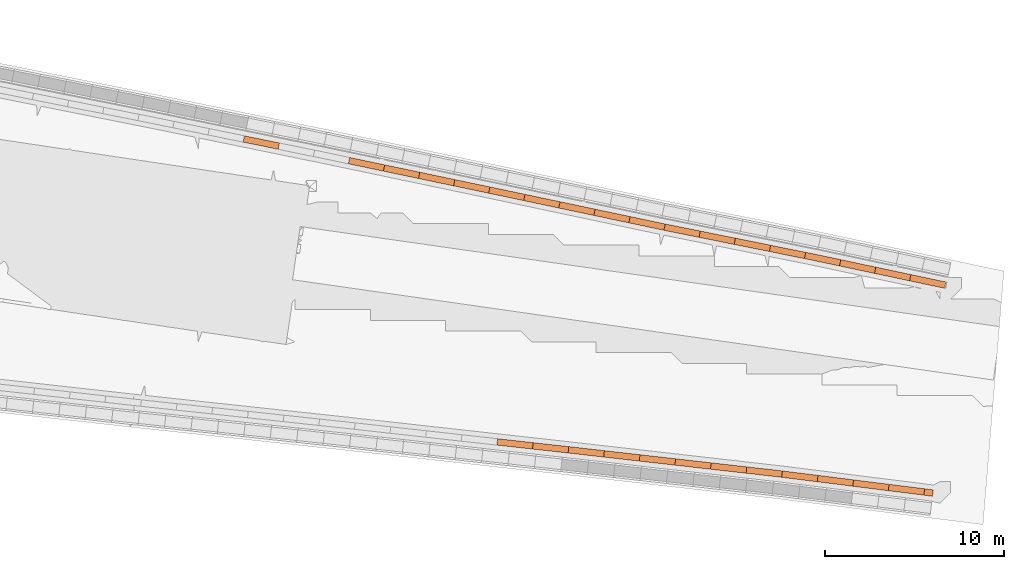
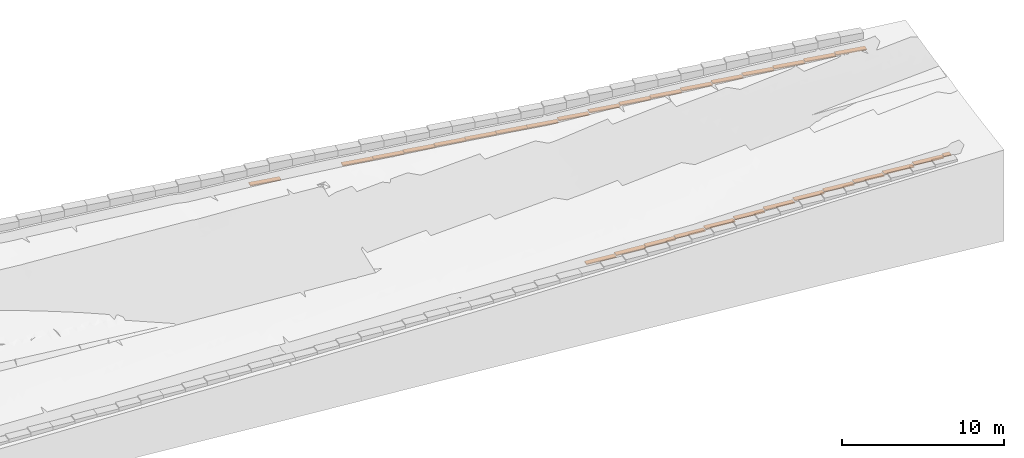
# Not in any storey, part 6 of 7: 31 proxies.
"""IFC4 model written with IfcOpenShell, lengths in metres."""

from ifc_helpers import new_model, si_unit, direction, frame, origin_with_axes, place, context, subcontext, project, spatial, polyline, outline, extrude, material, element, save


model = new_model("IFC4")

# Units and contexts
model_context = context("Model", 3, precision=1e-05, world=origin_with_axes(), true_north=direction((0.0, 1.0)))
body_context = subcontext(model_context, "Body", "Model", "MODEL_VIEW")
ifc_project = project(units=[si_unit("VOLUMEUNIT", "CUBIC_METRE"), si_unit("LENGTHUNIT", "METRE"), si_unit("AREAUNIT", "SQUARE_METRE")], contexts=[model_context])

# Site
site_placement = place(None, origin_with_axes())
site = spatial("IfcSite", under=ifc_project, at=site_placement, Name="Lares · Rua das Mercês · artigo 4771")

# Proxies
ifc_material = material(Name="Brita drenante", Category="stone")
proxy_1_placement = place(site_placement, frame((0.0, 0.0, 14.6326457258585), z_axis=(0.0, 0.0, 1.0), x_axis=(1.0, -1.03767253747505e-17, 0.0)))
element("IfcBuildingElementProxy", 1, at=proxy_1_placement, inside=site, material=ifc_material, Name="Limite north · vala drenante 21", ObjectType="INTERCEPTOR_SWALE", PredefinedType="USERDEFINED", context=body_context, shape_type="SweptSolid", body=[
    extrude(outline(polyline([(43.4255442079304, 14.7457387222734), (43.3533320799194, 14.3930555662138), (41.3939812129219, 14.7942340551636), (41.4661933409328, 15.1469172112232), (43.4255442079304, 14.7457387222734)])), origin_with_axes(), (0.0, 0.0, 1.0), 0.07),
])
proxy_2_placement = place(site_placement, frame((0.0, 0.0, 14.8155579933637), z_axis=(0.0, 0.0, 1.0), x_axis=(1.0, -1.03767253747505e-17, 0.0)))
element("IfcBuildingElementProxy", 2, at=proxy_2_placement, inside=site, material=ifc_material, Name="Limite north · vala drenante 24", ObjectType="INTERCEPTOR_SWALE", PredefinedType="USERDEFINED", context=body_context, shape_type="SweptSolid", body=[
    extrude(outline(polyline([(49.3009697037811, 13.5251797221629), (49.227027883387, 13.1728551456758), (47.2696691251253, 13.5836430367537), (47.3436109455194, 13.9359676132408), (49.3009697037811, 13.5251797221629)])), origin_with_axes(), (0.0, 0.0, 1.0), 0.07),
])
proxy_3_placement = place(site_placement, frame((0.0, 0.0, 14.842859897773), z_axis=(0.0, 0.0, 1.0), x_axis=(1.0, -1.03767253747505e-17, 0.0)))
element("IfcBuildingElementProxy", 3, at=proxy_3_placement, inside=site, material=ifc_material, Name="Limite north · vala drenante 25", ObjectType="INTERCEPTOR_SWALE", PredefinedType="USERDEFINED", context=body_context, shape_type="SweptSolid", body=[
    extrude(outline(polyline([(51.2583284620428, 13.1143918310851), (51.1843866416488, 12.762067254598), (49.227027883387, 13.1728551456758), (49.3009697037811, 13.5251797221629), (51.2583284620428, 13.1143918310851)])), origin_with_axes(), (0.0, 0.0, 1.0), 0.07),
])
proxy_4_placement = place(site_placement, frame((0.0, 0.0, 14.8966186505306), z_axis=(0.0, 0.0, 1.0), x_axis=(1.0, -1.03767253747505e-17, 0.0)))
element("IfcBuildingElementProxy", 4, at=proxy_4_placement, inside=site, material=ifc_material, Name="Limite north · vala drenante 26", ObjectType="INTERCEPTOR_SWALE", PredefinedType="USERDEFINED", context=body_context, shape_type="SweptSolid", body=[
    extrude(outline(polyline([(53.2156872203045, 12.7036039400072), (53.1417453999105, 12.3512793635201), (51.1843866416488, 12.762067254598), (51.2583284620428, 13.1143918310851), (53.2156872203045, 12.7036039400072)])), origin_with_axes(), (0.0, 0.0, 1.0), 0.07),
])
proxy_5_placement = place(site_placement, frame((0.0, 0.0, 14.9482467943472), z_axis=(0.0, 0.0, 1.0), x_axis=(1.0, -1.03767253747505e-17, 0.0)))
element("IfcBuildingElementProxy", 5, at=proxy_5_placement, inside=site, material=ifc_material, Name="Limite north · vala drenante 27", ObjectType="INTERCEPTOR_SWALE", PredefinedType="USERDEFINED", context=body_context, shape_type="SweptSolid", body=[
    extrude(outline(polyline([(55.1730459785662, 12.2928160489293), (55.0991041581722, 11.9404914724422), (53.1417453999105, 12.3512793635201), (53.2156872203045, 12.7036039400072), (55.1730459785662, 12.2928160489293)])), origin_with_axes(), (0.0, 0.0, 1.0), 0.07),
])
proxy_6_placement = place(site_placement, frame((0.0, 0.0, 14.9827187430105), z_axis=(0.0, 0.0, 1.0), x_axis=(1.0, -1.03767253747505e-17, 0.0)))
element("IfcBuildingElementProxy", 6, at=proxy_6_placement, inside=site, material=ifc_material, Name="Limite north · vala drenante 28", ObjectType="INTERCEPTOR_SWALE", PredefinedType="USERDEFINED", context=body_context, shape_type="SweptSolid", body=[
    extrude(outline(polyline([(56.2661596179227, 12.0634059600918), (56.2664302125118, 12.0633489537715), (57.1303956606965, 11.8806436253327), (57.0559126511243, 11.5284330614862), (56.1920824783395, 11.7111097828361), (55.0991041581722, 11.9404914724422), (55.1730459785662, 12.2928160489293), (56.2661596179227, 12.0634059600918)])), origin_with_axes(), (0.0, 0.0, 1.0), 0.07),
])
proxy_7_placement = place(site_placement, frame((0.0, 0.0, 15.0107989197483), z_axis=(0.0, 0.0, 1.0), x_axis=(1.0, -1.03767253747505e-17, 0.0)))
element("IfcBuildingElementProxy", 7, at=proxy_7_placement, inside=site, material=ifc_material, Name="Limite north · vala drenante 29", ObjectType="INTERCEPTOR_SWALE", PredefinedType="USERDEFINED", context=body_context, shape_type="SweptSolid", body=[
    extrude(outline(polyline([(59.0871210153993, 11.4668491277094), (59.0126380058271, 11.1146385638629), (57.0559126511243, 11.5284330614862), (57.1303956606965, 11.8806436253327), (59.0871210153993, 11.4668491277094)])), origin_with_axes(), (0.0, 0.0, 1.0), 0.07),
])
proxy_8_placement = place(site_placement, frame((0.0, 0.0, 15.0174429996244), z_axis=(0.0, 0.0, 1.0), x_axis=(1.0, -1.03767253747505e-17, 0.0)))
element("IfcBuildingElementProxy", 8, at=proxy_8_placement, inside=site, material=ifc_material, Name="Limite north · vala drenante 30", ObjectType="INTERCEPTOR_SWALE", PredefinedType="USERDEFINED", context=body_context, shape_type="SweptSolid", body=[
    extrude(outline(polyline([(61.043846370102, 11.0530546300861), (60.9693633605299, 10.7008440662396), (59.0126380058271, 11.1146385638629), (59.0871210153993, 11.4668491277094), (61.043846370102, 11.0530546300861)])), origin_with_axes(), (0.0, 0.0, 1.0), 0.07),
])
proxy_9_placement = place(site_placement, frame((0.0, 0.0, 15.1613322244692), z_axis=(0.0, 0.0, 1.0), x_axis=(1.0, -1.03767253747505e-17, 0.0)))
element("IfcBuildingElementProxy", 9, at=proxy_9_placement, inside=site, material=ifc_material, Name="Limite north · vala drenante 31", ObjectType="INTERCEPTOR_SWALE", PredefinedType="USERDEFINED", context=body_context, shape_type="SweptSolid", body=[
    extrude(outline(polyline([(63.0005717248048, 10.6392601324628), (62.9260887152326, 10.2870495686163), (60.9693633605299, 10.7008440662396), (61.043846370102, 11.0530546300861), (63.0005717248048, 10.6392601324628)])), origin_with_axes(), (0.0, 0.0, 1.0), 0.07),
])
proxy_10_placement = place(site_placement, frame((0.0, 0.0, 15.326342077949), z_axis=(0.0, 0.0, 1.0), x_axis=(1.0, -1.03767253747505e-17, 0.0)))
element("IfcBuildingElementProxy", 10, at=proxy_10_placement, inside=site, material=ifc_material, Name="Limite north · vala drenante 32", ObjectType="INTERCEPTOR_SWALE", PredefinedType="USERDEFINED", context=body_context, shape_type="SweptSolid", body=[
    extrude(outline(polyline([(64.9572970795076, 10.2254656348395), (64.8828140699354, 9.873255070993), (62.9260887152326, 10.2870495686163), (63.0005717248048, 10.6392601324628), (64.9572970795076, 10.2254656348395)])), origin_with_axes(), (0.0, 0.0, 1.0), 0.07),
])
proxy_11_placement = place(site_placement, frame((0.0, 0.0, 15.4382202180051), z_axis=(0.0, 0.0, 1.0), x_axis=(1.0, -1.03767253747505e-17, 0.0)))
element("IfcBuildingElementProxy", 11, at=proxy_11_placement, inside=site, material=ifc_material, Name="Limite north · vala drenante 33", ObjectType="INTERCEPTOR_SWALE", PredefinedType="USERDEFINED", context=body_context, shape_type="SweptSolid", body=[
    extrude(outline(polyline([(64.9611671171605, 10.2246472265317), (66.9161548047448, 9.83033794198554), (66.8449782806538, 9.47744432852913), (64.8891631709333, 9.87192049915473), (64.8875099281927, 9.87226202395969), (64.8828140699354, 9.873255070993), (64.9572970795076, 10.2254656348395), (64.9611671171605, 10.2246472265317)])), origin_with_axes(), (0.0, 0.0, 1.0), 0.07),
])
proxy_12_placement = place(site_placement, frame((0.0, 0.0, 15.5163302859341), z_axis=(0.0, 0.0, 1.0), x_axis=(1.0, -1.03767253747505e-17, 0.0)))
element("IfcBuildingElementProxy", 12, at=proxy_12_placement, inside=site, material=ifc_material, Name="Limite north · vala drenante 34", ObjectType="INTERCEPTOR_SWALE", PredefinedType="USERDEFINED", context=body_context, shape_type="SweptSolid", body=[
    extrude(outline(polyline([(68.8766748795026, 9.43491280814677), (68.8054983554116, 9.08201919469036), (66.8449782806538, 9.47744432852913), (66.9161548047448, 9.83033794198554), (68.8766748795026, 9.43491280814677)])), origin_with_axes(), (0.0, 0.0, 1.0), 0.07),
])
proxy_13_placement = place(site_placement, frame((0.0, 0.0, 15.621191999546), z_axis=(0.0, 0.0, 1.0), x_axis=(1.0, -1.03767253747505e-17, 0.0)))
element("IfcBuildingElementProxy", 13, at=proxy_13_placement, inside=site, material=ifc_material, Name="Limite north · vala drenante 35", ObjectType="INTERCEPTOR_SWALE", PredefinedType="USERDEFINED", context=body_context, shape_type="SweptSolid", body=[
    extrude(outline(polyline([(70.8371949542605, 9.039487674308), (70.7660184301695, 8.68659406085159), (68.8054983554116, 9.08201919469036), (68.8766748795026, 9.43491280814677), (70.8371949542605, 9.039487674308)])), origin_with_axes(), (0.0, 0.0, 1.0), 0.07),
])
proxy_14_placement = place(site_placement, frame((0.0, 0.0, 15.7328472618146), z_axis=(0.0, 0.0, 1.0), x_axis=(1.0, -1.03767253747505e-17, 0.0)))
element("IfcBuildingElementProxy", 14, at=proxy_14_placement, inside=site, material=ifc_material, Name="Limite north · vala drenante 36", ObjectType="INTERCEPTOR_SWALE", PredefinedType="USERDEFINED", context=body_context, shape_type="SweptSolid", body=[
    extrude(outline(polyline([(72.7977150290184, 8.64406254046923), (72.7265385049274, 8.29116892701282), (70.7660184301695, 8.68659406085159), (70.8371949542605, 9.039487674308), (72.7977150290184, 8.64406254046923)])), origin_with_axes(), (0.0, 0.0, 1.0), 0.07),
])
proxy_15_placement = place(site_placement, frame((0.0, 0.0, 15.8550952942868), z_axis=(0.0, 0.0, 1.0), x_axis=(1.0, -1.03767253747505e-17, 0.0)))
element("IfcBuildingElementProxy", 15, at=proxy_15_placement, inside=site, material=ifc_material, Name="Limite north · vala drenante 37", ObjectType="INTERCEPTOR_SWALE", PredefinedType="USERDEFINED", context=body_context, shape_type="SweptSolid", body=[
    extrude(outline(polyline([(73.2831791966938, 8.54614733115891), (73.284996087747, 8.54577111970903), (74.7569069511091, 8.23307239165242), (74.6820966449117, 7.88093120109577), (73.2110932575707, 8.19343714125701), (72.7265385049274, 8.29116892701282), (72.7977150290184, 8.64406254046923), (73.2831791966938, 8.54614733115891)])), origin_with_axes(), (0.0, 0.0, 1.0), 0.07),
])
proxy_16_placement = place(site_placement, frame((0.0, 0.0, 15.9553502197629), z_axis=(0.0, 0.0, 1.0), x_axis=(1.0, -1.03767253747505e-17, 0.0)))
element("IfcBuildingElementProxy", 16, at=proxy_16_placement, inside=site, material=ifc_material, Name="Limite north · vala drenante 38", ObjectType="INTERCEPTOR_SWALE", PredefinedType="USERDEFINED", context=body_context, shape_type="SweptSolid", body=[
    extrude(outline(polyline([(76.7132468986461, 7.81745957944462), (76.6384365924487, 7.46531838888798), (74.6820966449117, 7.88093120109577), (74.7569069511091, 8.23307239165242), (76.7132468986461, 7.81745957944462)])), origin_with_axes(), (0.0, 0.0, 1.0), 0.07),
])
proxy_17_placement = place(site_placement, frame((0.0, 0.0, 16.0528176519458), z_axis=(0.0, 0.0, 1.0), x_axis=(1.0, -1.03767253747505e-17, 0.0)))
element("IfcBuildingElementProxy", 17, at=proxy_17_placement, inside=site, material=ifc_material, Name="Limite north · vala drenante 39", ObjectType="INTERCEPTOR_SWALE", PredefinedType="USERDEFINED", context=body_context, shape_type="SweptSolid", body=[
    extrude(outline(polyline([(78.669586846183, 7.40184676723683), (78.5947765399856, 7.04970557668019), (76.6384365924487, 7.46531838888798), (76.7132468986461, 7.81745957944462), (78.669586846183, 7.40184676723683)])), origin_with_axes(), (0.0, 0.0, 1.0), 0.07),
])
proxy_18_placement = place(site_placement, frame((0.0, 0.0, 16.1334996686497), z_axis=(0.0, 0.0, 1.0), x_axis=(1.0, -1.03767253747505e-17, 0.0)))
element("IfcBuildingElementProxy", 18, at=proxy_18_placement, inside=site, material=ifc_material, Name="Limite north · vala drenante 40", ObjectType="INTERCEPTOR_SWALE", PredefinedType="USERDEFINED", context=body_context, shape_type="SweptSolid", body=[
    extrude(outline(polyline([(80.6259267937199, 6.98623395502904), (80.5511164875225, 6.63409276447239), (78.5947765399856, 7.04970557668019), (78.669586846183, 7.40184676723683), (80.6259267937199, 6.98623395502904)])), origin_with_axes(), (0.0, 0.0, 1.0), 0.07),
])
proxy_19_placement = place(site_placement, frame((0.0, 0.0, 14.0080133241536), z_axis=(0.0, 0.0, 1.0), x_axis=(1.0, -1.03767253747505e-17, 0.0)))
element("IfcBuildingElementProxy", 19, at=proxy_19_placement, inside=site, material=ifc_material, Name="Limite south · vala drenante 34", ObjectType="INTERCEPTOR_SWALE", PredefinedType="USERDEFINED", context=body_context, shape_type="SweptSolid", body=[
    extrude(outline(polyline([(57.586802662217, -1.98099265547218), (57.5470734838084, -2.33879370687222), (55.5592898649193, -2.11807604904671), (55.5990190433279, -1.76027499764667), (57.586802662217, -1.98099265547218)])), origin_with_axes(), (0.0, 0.0, 1.0), 0.07),
])
proxy_20_placement = place(site_placement, frame((0.0, 0.0, 14.1195809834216), z_axis=(0.0, 0.0, 1.0), x_axis=(1.0, -1.03767253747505e-17, 0.0)))
element("IfcBuildingElementProxy", 20, at=proxy_20_placement, inside=site, material=ifc_material, Name="Limite south · vala drenante 35", ObjectType="INTERCEPTOR_SWALE", PredefinedType="USERDEFINED", context=body_context, shape_type="SweptSolid", body=[
    extrude(outline(polyline([(59.4488968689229, -2.187754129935), (59.4493673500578, -2.18780699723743), (59.5750196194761, -2.20209372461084), (59.5343494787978, -2.55978904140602), (59.4089324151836, -2.54552905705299), (57.5470734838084, -2.33879370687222), (57.586802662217, -1.98099265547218), (59.4488968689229, -2.187754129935)])), origin_with_axes(), (0.0, 0.0, 1.0), 0.07),
])
proxy_21_placement = place(site_placement, frame((0.0, 0.0, 14.1970636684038), z_axis=(0.0, 0.0, 1.0), x_axis=(1.0, -1.03767253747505e-17, 0.0)))
element("IfcBuildingElementProxy", 21, at=proxy_21_placement, inside=site, material=ifc_material, Name="Limite south · vala drenante 36", ObjectType="INTERCEPTOR_SWALE", PredefinedType="USERDEFINED", context=body_context, shape_type="SweptSolid", body=[
    extrude(outline(polyline([(61.5622158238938, -2.42803895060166), (61.5215456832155, -2.78573426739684), (59.5343494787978, -2.55978904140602), (59.5750196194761, -2.20209372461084), (61.5622158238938, -2.42803895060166)])), origin_with_axes(), (0.0, 0.0, 1.0), 0.07),
])
proxy_22_placement = place(site_placement, frame((0.0, 0.0, 14.2881618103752), z_axis=(0.0, 0.0, 1.0), x_axis=(1.0, -1.03767253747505e-17, 0.0)))
element("IfcBuildingElementProxy", 22, at=proxy_22_placement, inside=site, material=ifc_material, Name="Limite south · vala drenante 37", ObjectType="INTERCEPTOR_SWALE", PredefinedType="USERDEFINED", context=body_context, shape_type="SweptSolid", body=[
    extrude(outline(polyline([(63.5494120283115, -2.65398417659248), (63.5087418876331, -3.01167949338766), (61.5215456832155, -2.78573426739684), (61.5622158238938, -2.42803895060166), (63.5494120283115, -2.65398417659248)])), origin_with_axes(), (0.0, 0.0, 1.0), 0.07),
])
proxy_23_placement = place(site_placement, frame((0.0, 0.0, 14.4366455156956), z_axis=(0.0, 0.0, 1.0), x_axis=(1.0, -1.03767253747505e-17, 0.0)))
element("IfcBuildingElementProxy", 23, at=proxy_23_placement, inside=site, material=ifc_material, Name="Limite south · vala drenante 38", ObjectType="INTERCEPTOR_SWALE", PredefinedType="USERDEFINED", context=body_context, shape_type="SweptSolid", body=[
    extrude(outline(polyline([(65.5366082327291, -2.8799294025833), (65.4959380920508, -3.23762471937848), (63.5087418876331, -3.01167949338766), (63.5494120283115, -2.65398417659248), (65.5366082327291, -2.8799294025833)])), origin_with_axes(), (0.0, 0.0, 1.0), 0.07),
])
proxy_24_placement = place(site_placement, frame((0.0, 0.0, 14.585129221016), z_axis=(0.0, 0.0, 1.0), x_axis=(1.0, -1.03767253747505e-17, 0.0)))
element("IfcBuildingElementProxy", 24, at=proxy_24_placement, inside=site, material=ifc_material, Name="Limite south · vala drenante 39", ObjectType="INTERCEPTOR_SWALE", PredefinedType="USERDEFINED", context=body_context, shape_type="SweptSolid", body=[
    extrude(outline(polyline([(67.5238044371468, -3.10587462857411), (67.4831342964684, -3.46356994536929), (65.4959380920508, -3.23762471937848), (65.5366082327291, -2.8799294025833), (67.5238044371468, -3.10587462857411)])), origin_with_axes(), (0.0, 0.0, 1.0), 0.07),
])
proxy_25_placement = place(site_placement, frame((0.0, 0.0, 14.7336129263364), z_axis=(0.0, 0.0, 1.0), x_axis=(1.0, -1.03767253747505e-17, 0.0)))
element("IfcBuildingElementProxy", 25, at=proxy_25_placement, inside=site, material=ifc_material, Name="Limite south · vala drenante 40", ObjectType="INTERCEPTOR_SWALE", PredefinedType="USERDEFINED", context=body_context, shape_type="SweptSolid", body=[
    extrude(outline(polyline([(69.5110006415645, -3.33181985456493), (69.4703305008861, -3.68951517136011), (67.4831342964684, -3.46356994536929), (67.5238044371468, -3.10587462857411), (69.5110006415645, -3.33181985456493)])), origin_with_axes(), (0.0, 0.0, 1.0), 0.07),
])
proxy_26_placement = place(site_placement, frame((0.0, 0.0, 14.8820966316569), z_axis=(0.0, 0.0, 1.0), x_axis=(1.0, -1.03767253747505e-17, 0.0)))
element("IfcBuildingElementProxy", 26, at=proxy_26_placement, inside=site, material=ifc_material, Name="Limite south · vala drenante 41", ObjectType="INTERCEPTOR_SWALE", PredefinedType="USERDEFINED", context=body_context, shape_type="SweptSolid", body=[
    extrude(outline(polyline([(71.4699829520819, -3.55455714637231), (71.4721121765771, -3.55481209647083), (71.5002858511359, -3.55835592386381), (71.4553572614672, -3.91554134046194), (71.4282474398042, -3.91213132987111), (69.4703305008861, -3.68951517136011), (69.5110006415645, -3.33181985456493), (71.4699829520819, -3.55455714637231)])), origin_with_axes(), (0.0, 0.0, 1.0), 0.07),
])
proxy_27_placement = place(site_placement, frame((0.0, 0.0, 14.9940327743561), z_axis=(0.0, 0.0, 1.0), x_axis=(1.0, -1.03767253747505e-17, 0.0)))
element("IfcBuildingElementProxy", 27, at=proxy_27_placement, inside=site, material=ifc_material, Name="Limite south · vala drenante 42", ObjectType="INTERCEPTOR_SWALE", PredefinedType="USERDEFINED", context=body_context, shape_type="SweptSolid", body=[
    extrude(outline(polyline([(73.4846492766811, -3.80795919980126), (73.4397206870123, -4.16514461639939), (71.4553572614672, -3.91554134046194), (71.5002858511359, -3.55835592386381), (73.4846492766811, -3.80795919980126)])), origin_with_axes(), (0.0, 0.0, 1.0), 0.07),
])
proxy_28_placement = place(site_placement, frame((0.0, 0.0, 15.1074253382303), z_axis=(0.0, 0.0, 1.0), x_axis=(1.0, -1.03767253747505e-17, 0.0)))
element("IfcBuildingElementProxy", 28, at=proxy_28_placement, inside=site, material=ifc_material, Name="Limite south · vala drenante 43", ObjectType="INTERCEPTOR_SWALE", PredefinedType="USERDEFINED", context=body_context, shape_type="SweptSolid", body=[
    extrude(outline(polyline([(75.4690127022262, -4.05756247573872), (75.4240841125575, -4.41474789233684), (73.4397206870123, -4.16514461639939), (73.4846492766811, -3.80795919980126), (75.4690127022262, -4.05756247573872)])), origin_with_axes(), (0.0, 0.0, 1.0), 0.07),
])
proxy_29_placement = place(site_placement, frame((0.0, 0.0, 15.2354262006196), z_axis=(0.0, 0.0, 1.0), x_axis=(1.0, -1.03767253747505e-17, 0.0)))
element("IfcBuildingElementProxy", 29, at=proxy_29_placement, inside=site, material=ifc_material, Name="Limite south · vala drenante 44", ObjectType="INTERCEPTOR_SWALE", PredefinedType="USERDEFINED", context=body_context, shape_type="SweptSolid", body=[
    extrude(outline(polyline([(77.4533761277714, -4.30716575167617), (77.4084475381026, -4.6643511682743), (75.4240841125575, -4.41474789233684), (75.4690127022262, -4.05756247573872), (77.4533761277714, -4.30716575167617)])), origin_with_axes(), (0.0, 0.0, 1.0), 0.07),
])
proxy_30_placement = place(site_placement, frame((0.0, 0.0, 15.3740637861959), z_axis=(0.0, 0.0, 1.0), x_axis=(1.0, -1.03767253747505e-17, 0.0)))
element("IfcBuildingElementProxy", 30, at=proxy_30_placement, inside=site, material=ifc_material, Name="Limite south · vala drenante 45", ObjectType="INTERCEPTOR_SWALE", PredefinedType="USERDEFINED", context=body_context, shape_type="SweptSolid", body=[
    extrude(outline(polyline([(79.4377395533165, -4.55676902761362), (79.3928109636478, -4.91395444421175), (77.4084475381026, -4.6643511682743), (77.4533761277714, -4.30716575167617), (79.4377395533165, -4.55676902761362)])), origin_with_axes(), (0.0, 0.0, 1.0), 0.07),
])
proxy_31_placement = place(site_placement, frame((0.0, 0.0, 15.4602340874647), z_axis=(0.0, 0.0, 1.0), x_axis=(1.0, -1.03767253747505e-17, 0.0)))
element("IfcBuildingElementProxy", 31, at=proxy_31_placement, inside=site, material=ifc_material, Name="Limite south · vala drenante 46", ObjectType="INTERCEPTOR_SWALE", PredefinedType="USERDEFINED", context=body_context, shape_type="SweptSolid", body=[
    extrude(outline(polyline([(79.9201414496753, -4.61744797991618), (79.8752128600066, -4.9746333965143), (79.3928109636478, -4.91395444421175), (79.4377395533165, -4.55676902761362), (79.9201414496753, -4.61744797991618)])), origin_with_axes(), (0.0, 0.0, 1.0), 0.07),
])

save(model, "model.ifc")
